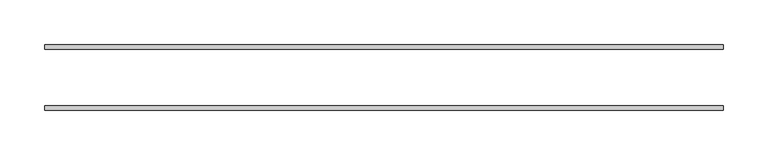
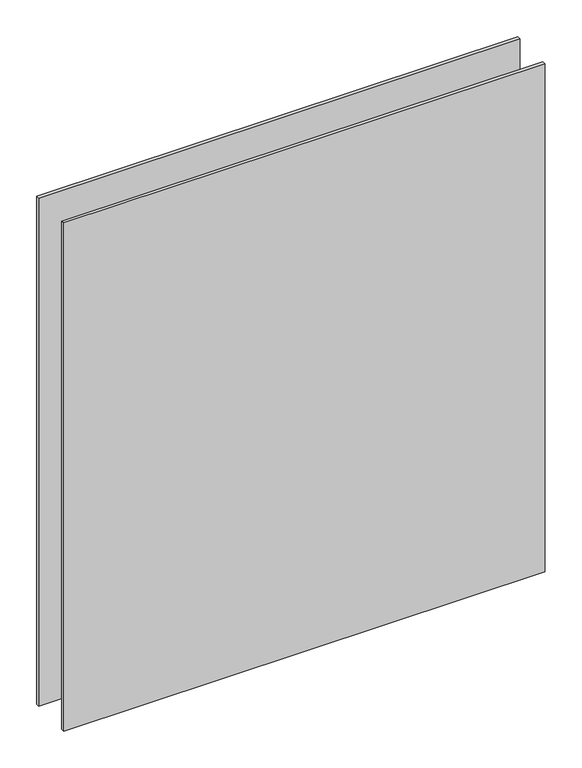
"""IFC4 building model written with IfcOpenShell, lengths in millimetres: plate geometry, VERTI ELEMENT - prosklená výplň : Prosklená výplň."""

import ifcopenshell
import ifcopenshell.guid

model = None  # the IFC model being written
_history = None  # IfcOwnerHistory: only IFC2X3 demands one
_inside = {}  # id of a spatial element -> (the spatial element, [elements in it])
_under = {}  # id of a project, library or spatial element -> (it, [spatial elements below it])
_declared = {}  # id of a project -> (the project, [libraries it declares])
_typed = {}  # id of a type object -> (the type object, [elements of that type])
_made_of = {}  # id of a material, layer set ... -> (it, [elements and type objects made of it])


def new_model(schema):
    """Start an empty IFC model of exactly this schema.

    Asked for "IFC4X3", IfcOpenShell would pick the latest addendum, in which some entities
    have other attributes; the version numbers below select the first issue.
    IFC2X3 requires an IfcOwnerHistory on every rooted entity: one is made here for all.
    """
    global model, _history
    if schema == "IFC4X3":
        model = ifcopenshell.file(schema_version=(4, 3, 0, 0))
    else:
        model = ifcopenshell.file(schema=schema)
    _inside.clear()
    _under.clear()
    _declared.clear()
    _typed.clear()
    _made_of.clear()
    _history = None
    if model.schema == "IFC2X3":
        org = make("IfcOrganization", Name="unknown")
        user = make(
            "IfcPersonAndOrganization",
            ThePerson=make("IfcPerson", FamilyName="unknown"),
            TheOrganization=org,
        )
        app = make(
            "IfcApplication",
            ApplicationDeveloper=org,
            Version="unknown",
            ApplicationFullName="unknown",
            ApplicationIdentifier="unknown",
        )
        _history = make(
            "IfcOwnerHistory",
            OwningUser=user,
            OwningApplication=app,
            ChangeAction="ADDED",
            CreationDate=0,
        )
    return model


def make(cls, **values):
    """One entity of the class cls with the attributes given. An attribute that is None is left unset."""
    return model.create_entity(
        cls, **{name: value for name, value in values.items() if value is not None}
    )


def rooted(cls, **values):
    """An entity with a GlobalId (a new one), such as an element, a storey or a relation."""
    return make(cls, GlobalId=ifcopenshell.guid.new(), OwnerHistory=_history, **values)


def si_unit(unit_type, name, prefix=None):
    """IfcSIUnit, for example si_unit("LENGTHUNIT", "METRE", prefix="MILLI")."""
    return make("IfcSIUnit", UnitType=unit_type, Prefix=prefix, Name=name)


def assignment(units):
    """IfcUnitAssignment: the units of a project."""
    return None if units is None else make("IfcUnitAssignment", Units=units)


def point(xyz):
    """IfcCartesianPoint."""
    return None if xyz is None else make("IfcCartesianPoint", Coordinates=xyz)


def direction(xyz):
    """IfcDirection."""
    return None if xyz is None else make("IfcDirection", DirectionRatios=xyz)


def frame(location, z_axis=None, x_axis=None):
    """IfcAxis2Placement3D, a coordinate frame: its origin and axes. An axis left out is left unset."""
    return make(
        "IfcAxis2Placement3D",
        Location=point(location),
        Axis=direction(z_axis),
        RefDirection=direction(x_axis),
    )


def origin():
    """The frame at (0, 0, 0) with its axes left unset."""
    return frame((0.0, 0.0, 0.0))


def origin_with_axes():
    """The frame at (0, 0, 0) with the z axis (0, 0, 1) and the x axis (1, 0, 0) written out."""
    return frame((0.0, 0.0, 0.0), z_axis=(0.0, 0.0, 1.0), x_axis=(1.0, 0.0, 0.0))


def place(relative_to, where):
    """IfcLocalPlacement: puts the frame where relative to a parent placement (None: the world)."""
    return make(
        "IfcLocalPlacement", PlacementRelTo=relative_to, RelativePlacement=where
    )


def context(
    kind, dimensions, precision=None, world=None, true_north=None, identifier=None
):
    """IfcGeometricRepresentationContext, for example the 3D "Model" context."""
    return make(
        "IfcGeometricRepresentationContext",
        ContextIdentifier=identifier,
        ContextType=kind,
        CoordinateSpaceDimension=dimensions,
        Precision=precision,
        WorldCoordinateSystem=world,
        TrueNorth=true_north,
    )


def project(units=None, contexts=None):
    """IfcProject with its units and contexts."""
    return rooted(
        "IfcProject",
        Name="project",
        RepresentationContexts=contexts,
        UnitsInContext=assignment(units),
    )


def spatial(cls, under=None, at=None, **own):
    """A site, building, storey or space (cls), placed at a placement, below another one or the project."""
    s = rooted(cls, ObjectPlacement=at, **own)
    if under is not None:
        _under.setdefault(under.id(), (under, []))[1].append(s)
    return s


def polyline(points):
    """IfcPolyline through the points."""
    return make("IfcPolyline", Points=[point(p) for p in points])


def outline(outer, holes=None, kind="AREA"):
    """IfcArbitraryClosedProfileDef: a profile drawn as a closed curve; with holes, ...WithVoids."""
    if holes is None:
        return make("IfcArbitraryClosedProfileDef", ProfileType=kind, OuterCurve=outer)
    return make(
        "IfcArbitraryProfileDefWithVoids",
        ProfileType=kind,
        OuterCurve=outer,
        InnerCurves=holes,
    )


def extrude(swept, where, along, depth):
    """IfcExtrudedAreaSolid: the profile swept, set in the frame where, extruded along a direction by depth."""
    return make(
        "IfcExtrudedAreaSolid",
        SweptArea=swept,
        Position=where,
        ExtrudedDirection=direction(along),
        Depth=depth,
    )


def shape(context_of_items, identifier, shape_type, items):
    """IfcShapeRepresentation: the items that make up one representation, for example the "Body"."""
    return make(
        "IfcShapeRepresentation",
        ContextOfItems=context_of_items,
        RepresentationIdentifier=identifier,
        RepresentationType=shape_type,
        Items=items,
    )


def source(mapping_origin, context_of_items, identifier, shape_type, items):
    """IfcRepresentationMap: a shape defined once, which mapped items show again and again."""
    return make(
        "IfcRepresentationMap",
        MappingOrigin=mapping_origin,
        MappedRepresentation=shape(context_of_items, identifier, shape_type, items),
    )


def transform(
    local_origin,
    x_axis=None,
    y_axis=None,
    z_axis=None,
    scale=None,
    scale2=None,
    scale3=None,
    uniform=True,
):
    """IfcCartesianTransformationOperator3D, or its non-uniform kind. x_axis, y_axis, z_axis: its Axis1, 2, 3."""
    if uniform:
        return make(
            "IfcCartesianTransformationOperator3D",
            Axis1=direction(x_axis),
            Axis2=direction(y_axis),
            LocalOrigin=point(local_origin),
            Scale=scale,
            Axis3=direction(z_axis),
        )
    return make(
        "IfcCartesianTransformationOperator3DnonUniform",
        Axis1=direction(x_axis),
        Axis2=direction(y_axis),
        LocalOrigin=point(local_origin),
        Scale=scale,
        Axis3=direction(z_axis),
        Scale2=scale2,
        Scale3=scale3,
    )


def mapped(mapping_source, mapping_target):
    """IfcMappedItem: shows the shape of a source again, moved by a transform."""
    return make(
        "IfcMappedItem", MappingSource=mapping_source, MappingTarget=mapping_target
    )


def made_of(thing, what):
    """Note that an element or type object is made of a material, layer set ...; save() writes the relation."""
    if what is not None:
        _made_of.setdefault(what.id(), (what, []))[1].append(thing)
    return thing


def element(
    cls,
    number,
    at=None,
    inside=None,
    cuts=None,
    type_object=None,
    material=None,
    context=None,
    identifier="Body",
    shape_type=None,
    held_by="IfcProductDefinitionShape",
    body=None,
    shapes=None,
    **own,
):
    """One element of the class cls, such as IfcWall. Its Tag is "e" and its number.

    at: its placement. inside: the storey or other place that contains it. cuts: it is an
    opening in that element (IfcRelVoidsElement). A single representation is given by context,
    identifier, shape_type and body (its items); several are given by shapes. held_by: the class
    of the entity that holds the representations. save() writes the other relations.
    """
    e = rooted(cls, Tag="e%d" % number, ObjectPlacement=at, **own)
    if body is not None:
        shapes = [shape(context, identifier, shape_type, body)]
    if shapes is not None:
        e.Representation = make(held_by, Representations=shapes)
    if inside is not None:
        _inside.setdefault(inside.id(), (inside, []))[1].append(e)
    if cuts is not None:
        rooted(
            "IfcRelVoidsElement", RelatingBuildingElement=cuts, RelatedOpeningElement=e
        )
    if type_object is not None:
        _typed.setdefault(type_object.id(), (type_object, []))[1].append(e)
    return made_of(e, material)


def aggregate(whole, parts):
    """IfcRelAggregates: a whole, such as a stair, and the parts it consists of."""
    return rooted("IfcRelAggregates", RelatingObject=whole, RelatedObjects=parts)


def save(model, path):
    """Write the relations noted so far, then the file.

    IfcRelAggregates (storeys below a building ...), IfcRelContainedInSpatialStructure (elements
    in a storey), IfcRelDefinesByType, IfcRelAssociatesMaterial and IfcRelDeclares: one each for
    every whole, place, type object, material and project.
    """
    for whole, parts in _under.values():
        aggregate(whole, parts)
    for where, things in _inside.values():
        rooted(
            "IfcRelContainedInSpatialStructure",
            RelatedElements=things,
            RelatingStructure=where,
        )
    for kind, things in _typed.values():
        rooted("IfcRelDefinesByType", RelatedObjects=things, RelatingType=kind)
    for what, things in _made_of.values():
        rooted("IfcRelAssociatesMaterial", RelatedObjects=things, RelatingMaterial=what)
    for by, libraries in _declared.values():
        rooted("IfcRelDeclares", RelatingContext=by, RelatedDefinitions=libraries)
    model.write(path)


def plate_f79da63e(model_context):
    return source(origin(), model_context, "Body", "SweptSolid", [
        extrude(outline(polyline([(-377.5, -36.5), (-377.5, -31.5), (377.5, -31.5), (377.5, -36.5), (-377.5, -36.5)])), origin_with_axes(), (0.0, 0.0, 1.0), 842.5),
        extrude(outline(polyline([(377.5, 36.5), (377.5, 31.5), (-377.5, 31.5), (-377.5, 36.5), (377.5, 36.5)])), origin_with_axes(), (0.0, 0.0, 1.0), 842.5),
    ])


if __name__ == "__main__":
    model = new_model("IFC4")
    model_context = context("Model", 3, world=origin())
    ifc_project = project(units=[si_unit("LENGTHUNIT", "METRE", prefix="MILLI")], contexts=[model_context])
    site = spatial("IfcSite", under=ifc_project)
    building = spatial("IfcBuilding", under=site)
    placement = place(None, origin())
    plate_shape = plate_f79da63e(model_context)
    element("IfcPlate", 1, ObjectType="VERTI ELEMENT - prosklená výplň : Prosklená výplň", at=placement, inside=building, context=model_context, shape_type="MappedRepresentation", body=[
        mapped(plate_shape, transform((0.0, 0.0, 0.0), x_axis=(1.0, 0.0, 0.0), y_axis=(0.0, 1.0, 0.0), z_axis=(0.0, 0.0, 1.0))),
    ])
    save(model, "model.ifc")
